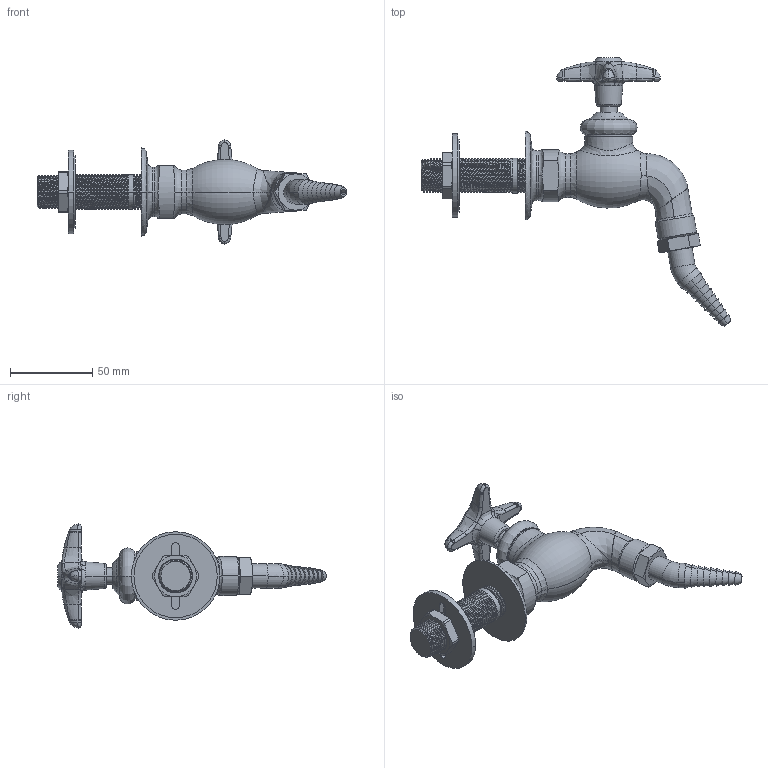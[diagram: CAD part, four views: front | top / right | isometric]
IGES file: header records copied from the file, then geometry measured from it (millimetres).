
Start section:  PTC IGES file: LWV4-A23.igs
Global section: file name: LWV4-A23.igs; native system: Creo Parametric by PTC Inc.; preprocessor: 2014500; author: usch_engrender; organization: Unknown; date: 20150915.131058; units: inch
Bounding box: 188.8 x 163.83 x 63.42 mm (x, y, z)
Volume: 145919.6 mm3; surface area: 41429.6 mm2
Topology: 1 solids, 5 shells, 508 faces, 1227 edges, 748 vertices
Faces by surface type: bspline 272, revolution 236
